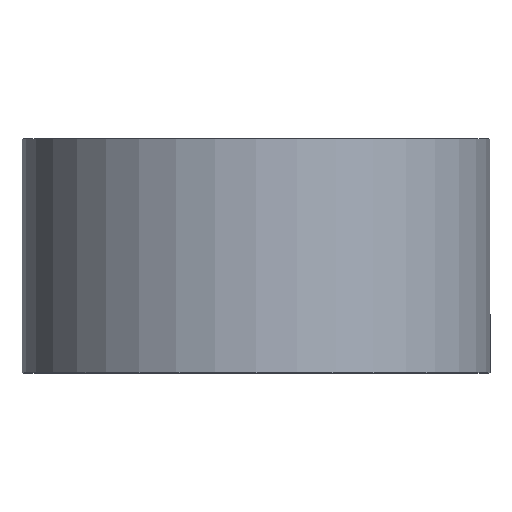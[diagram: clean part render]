
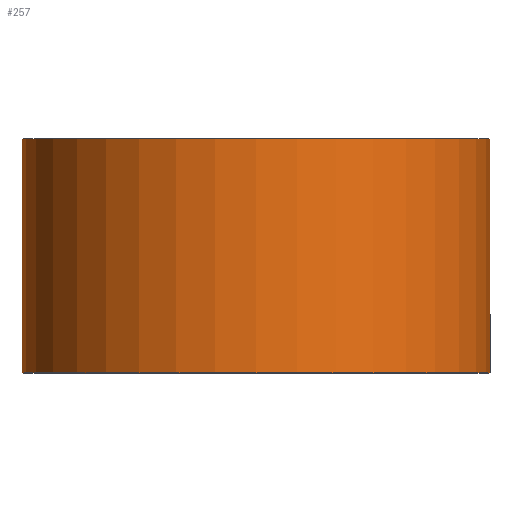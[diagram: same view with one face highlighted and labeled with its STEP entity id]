
A CAD part, top view. The second image highlights one B-rep face of the part: STEP entity #257.
In plain terms, the highlighted cylindrical face has radius 15 mm (diameter 30 mm), a partial arc.
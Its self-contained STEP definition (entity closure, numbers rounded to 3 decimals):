
#36 = ORIENTED_EDGE ( 'NONE', *, *, #573, .T. ) ;
#50 = VERTEX_POINT ( 'NONE', #557 ) ;
#60 = ORIENTED_EDGE ( 'NONE', *, *, #601, .F. ) ;
#82 = AXIS2_PLACEMENT_3D ( 'NONE', #734, #365, #899 ) ;
#167 = DIRECTION ( 'NONE',  ( -1., 0., 0. ) ) ;
#168 = EDGE_CURVE ( 'NONE', #50, #928, #941, .T. ) ;
#222 = VECTOR ( 'NONE', #634, 1000. ) ;
#257 = ADVANCED_FACE ( 'NONE', ( #729 ), #435, .T. ) ;
#317 = CARTESIAN_POINT ( 'NONE',  ( -15., 0., 0. ) ) ;
#365 = DIRECTION ( 'NONE',  ( 0., 1., 0. ) ) ;
#386 = DIRECTION ( 'NONE',  ( 0., 1., 0. ) ) ;
#432 = VERTEX_POINT ( 'NONE', #885 ) ;
#435 = CYLINDRICAL_SURFACE ( 'NONE', #82, 15. ) ;
#459 = ORIENTED_EDGE ( 'NONE', *, *, #168, .T. ) ;
#462 = DIRECTION ( 'NONE',  ( 0., 1., 0. ) ) ;
#486 = CIRCLE ( 'NONE', #955, 15. ) ;
#523 = DIRECTION ( 'NONE',  ( 0., 1., 0. ) ) ;
#557 = CARTESIAN_POINT ( 'NONE',  ( 15., -7.5, 0. ) ) ;
#569 = CARTESIAN_POINT ( 'NONE',  ( 15., 0., 0. ) ) ;
#573 = EDGE_CURVE ( 'NONE', #919, #50, #486, .T. ) ;
#589 = EDGE_CURVE ( 'NONE', #432, #928, #940, .T. ) ;
#591 = CARTESIAN_POINT ( 'NONE',  ( -15., -7.5, 0. ) ) ;
#601 = EDGE_CURVE ( 'NONE', #919, #432, #757, .T. ) ;
#603 = CARTESIAN_POINT ( 'NONE',  ( 0., -7.5, 0. ) ) ;
#606 = DIRECTION ( 'NONE',  ( -1., 0., 0. ) ) ;
#634 = DIRECTION ( 'NONE',  ( 0., 1., 0. ) ) ;
#665 = ORIENTED_EDGE ( 'NONE', *, *, #589, .F. ) ;
#704 = EDGE_LOOP ( 'NONE', ( #36, #459, #665, #60 ) ) ;
#729 = FACE_OUTER_BOUND ( 'NONE', #704, .T. ) ;
#734 = CARTESIAN_POINT ( 'NONE',  ( 0., 0., 0. ) ) ;
#738 = AXIS2_PLACEMENT_3D ( 'NONE', #898, #462, #167 ) ;
#741 = CARTESIAN_POINT ( 'NONE',  ( 15., 7.5, 0. ) ) ;
#757 = LINE ( 'NONE', #317, #823 ) ;
#823 = VECTOR ( 'NONE', #386, 1000. ) ;
#885 = CARTESIAN_POINT ( 'NONE',  ( -15., 7.5, 0. ) ) ;
#898 = CARTESIAN_POINT ( 'NONE',  ( 0., 7.5, 0. ) ) ;
#899 = DIRECTION ( 'NONE',  ( -1., 0., 0. ) ) ;
#919 = VERTEX_POINT ( 'NONE', #591 ) ;
#928 = VERTEX_POINT ( 'NONE', #741 ) ;
#940 = CIRCLE ( 'NONE', #738, 15. ) ;
#941 = LINE ( 'NONE', #569, #222 ) ;
#955 = AXIS2_PLACEMENT_3D ( 'NONE', #603, #523, #606 ) ;
